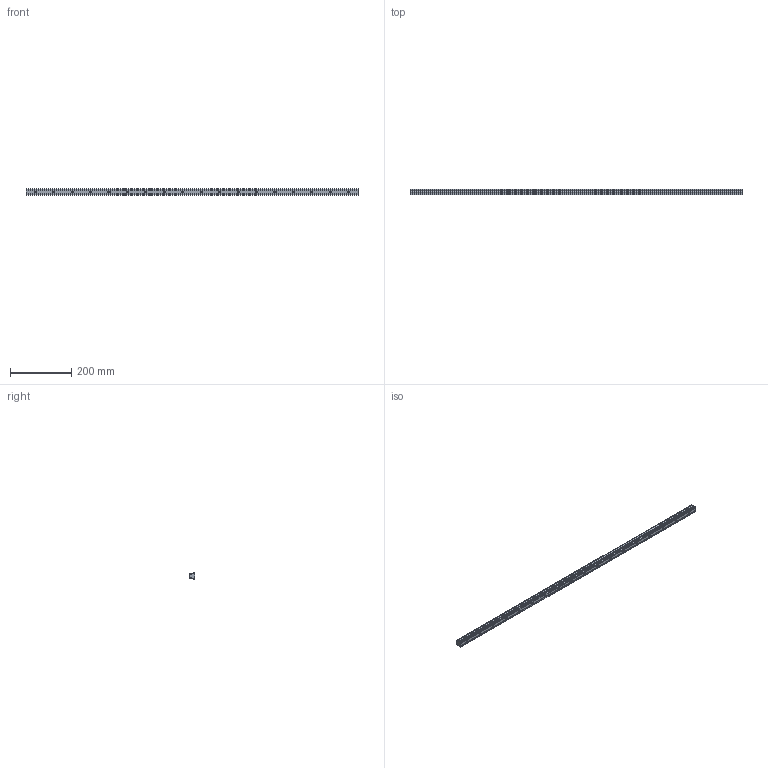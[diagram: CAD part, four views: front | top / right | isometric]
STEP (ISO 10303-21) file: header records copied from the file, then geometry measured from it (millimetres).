
FILE_DESCRIPTION (( 'STEP AP203' ), '1' );
FILE_NAME ('L1018.20R-1080.step', '2023-08-06T09:07:15', ( '' ), ( '' ), 'SwSTEP 2.0', 'SolidWorks 2019', '' );
FILE_SCHEMA (( 'CONFIG_CONTROL_DESIGN' ));
Length unit declared in the file: millimetre
Products named in the file (1): L1018.20R-1080
Bounding box: 1080 x 19.3 x 20 mm (x, y, z)
Volume: 342498.5 mm3; surface area: 91789.9 mm2
Topology: 1 solids, 1 shells, 191 faces, 441 edges, 252 vertices
Faces by surface type: cylinder 75, cone 72, plane 44
Entity records: 5210 total; most frequent: DIRECTION 975, CARTESIAN_POINT 849, ORIENTED_EDGE 810, EDGE_CURVE 405, AXIS2_PLACEMENT_3D 378, VERTEX_POINT 252, EDGE_LOOP 227, VECTOR 219
